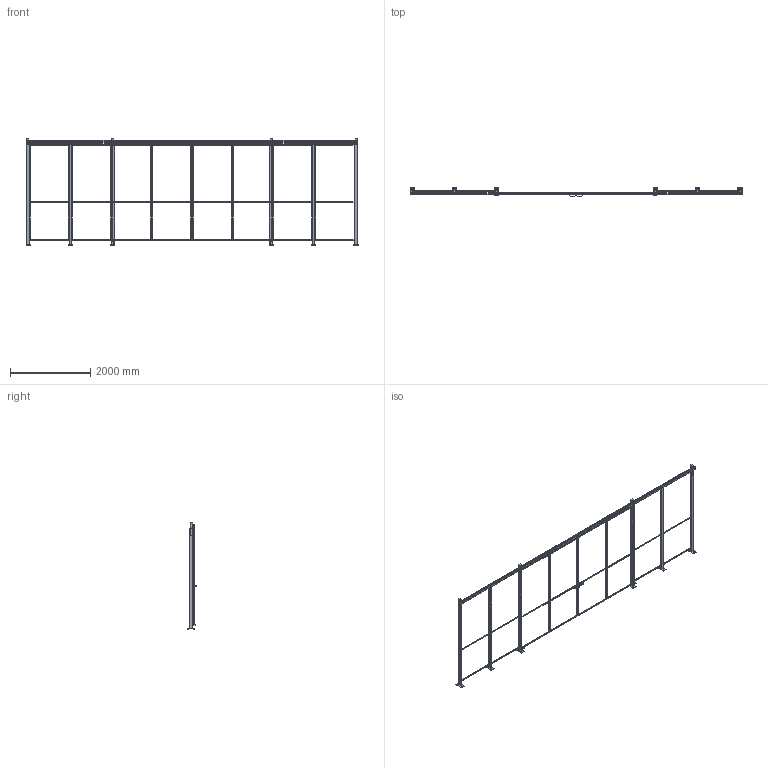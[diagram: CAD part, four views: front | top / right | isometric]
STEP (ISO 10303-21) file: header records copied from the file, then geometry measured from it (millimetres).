
FILE_DESCRIPTION(/* description */ (''),/* implementation_level */ '2;1');
FILE_NAME(/* name */ 'C:\SafeGuarding\ELABORATI\HOR§VED_2025-04-01-13-15-36.stp',/* time_stamp */ '2025-04-01T13:15:40+02:00',/* author */ ('admin'),/* organization */ (''),/* preprocessor_version */ 'ST-DEVELOPER v18.1',/* originating_system */ 'AutoCAD Mechanical',/* authorisation */ '');
FILE_SCHEMA (('AUTOMOTIVE_DESIGN { 1 0 10303 214 3 1 1 }'));
Length unit declared in the file: millimetre
Products named in the file (3): Product; VFPA.REPE2010002400; P_VFMA.V260SDU.2520
Assembly tree (14 placements, depth 2):
  Product
    VFPA.REPE2010002400  x8
    P_VFMA.V260SDU.2520  x6
Bounding box: 8300 x 235.91 x 2654 mm (x, y, z)
Volume: 95383794 mm3; surface area: 13369703.4 mm2
Topology: 52 solids, 74 shells, 746 faces, 2862 edges, 3080 vertices
Faces by surface type: plane 682, cylinder 64
Full cylindrical faces by diameter (mm): 11 x24, 12 x4, 14 x4, 15 x8, 40 x8
Entity records: 17718 total; most frequent: CARTESIAN_POINT 3707, ORIENTED_EDGE 2676, DIRECTION 2638, EDGE_CURVE 1436, LINE 1288, VECTOR 1288, VERTEX_POINT 1040, AXIS2_PLACEMENT_3D 675
